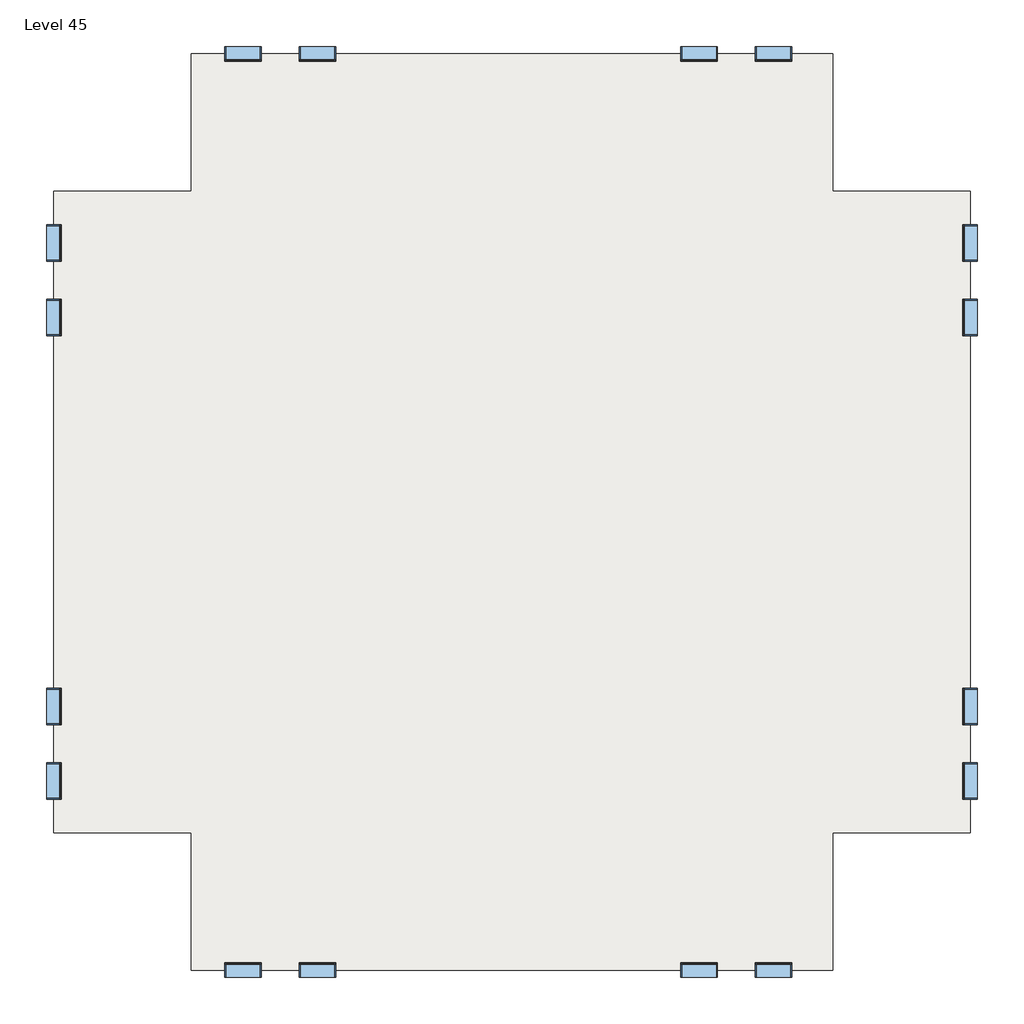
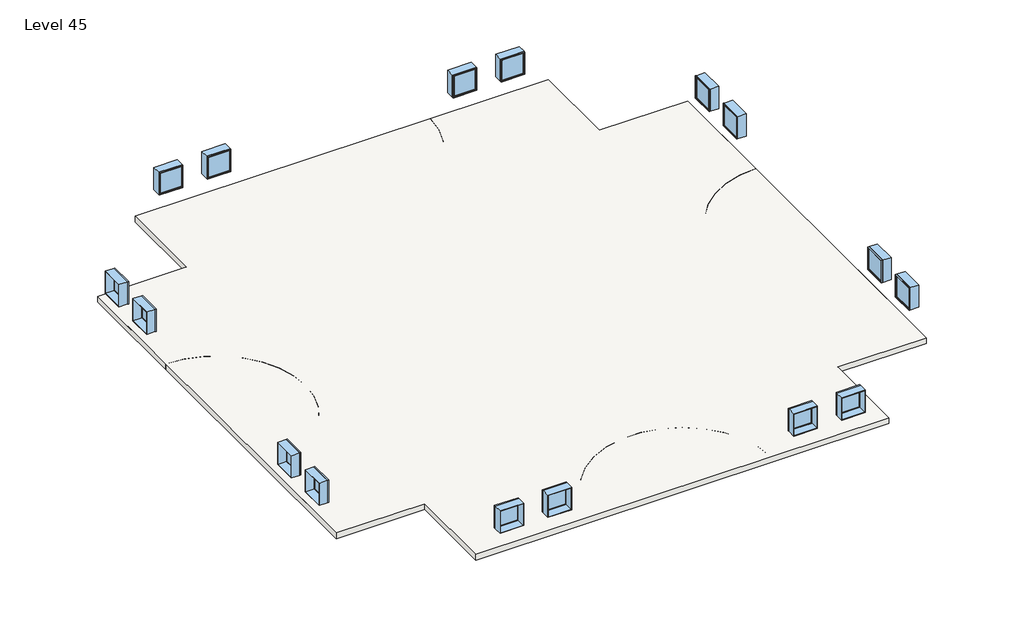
# One storey: 16 windows, 3 slabs.
"""IFC4 building model written with IfcOpenShell, lengths in millimetres."""

import ifcopenshell
import ifcopenshell.guid

model = None  # the IFC model being written
_history = None  # IfcOwnerHistory: only IFC2X3 demands one
_inside = {}  # id of a spatial element -> (the spatial element, [elements in it])
_under = {}  # id of a project, library or spatial element -> (it, [spatial elements below it])
_declared = {}  # id of a project -> (the project, [libraries it declares])
_typed = {}  # id of a type object -> (the type object, [elements of that type])
_made_of = {}  # id of a material, layer set ... -> (it, [elements and type objects made of it])


def new_model(schema):
    """Start an empty IFC model of exactly this schema.

    Asked for "IFC4X3", IfcOpenShell would pick the latest addendum, in which some entities
    have other attributes; the version numbers below select the first issue.
    IFC2X3 requires an IfcOwnerHistory on every rooted entity: one is made here for all.
    """
    global model, _history
    if schema == "IFC4X3":
        model = ifcopenshell.file(schema_version=(4, 3, 0, 0))
    else:
        model = ifcopenshell.file(schema=schema)
    _inside.clear()
    _under.clear()
    _declared.clear()
    _typed.clear()
    _made_of.clear()
    _history = None
    if model.schema == "IFC2X3":
        org = make("IfcOrganization", Name="unknown")
        user = make(
            "IfcPersonAndOrganization",
            ThePerson=make("IfcPerson", FamilyName="unknown"),
            TheOrganization=org,
        )
        app = make(
            "IfcApplication",
            ApplicationDeveloper=org,
            Version="unknown",
            ApplicationFullName="unknown",
            ApplicationIdentifier="unknown",
        )
        _history = make(
            "IfcOwnerHistory",
            OwningUser=user,
            OwningApplication=app,
            ChangeAction="ADDED",
            CreationDate=0,
        )
    return model


def make(cls, **values):
    """One entity of the class cls with the attributes given. An attribute that is None is left unset."""
    return model.create_entity(
        cls, **{name: value for name, value in values.items() if value is not None}
    )


def rooted(cls, **values):
    """An entity with a GlobalId (a new one), such as an element, a storey or a relation."""
    return make(cls, GlobalId=ifcopenshell.guid.new(), OwnerHistory=_history, **values)


def si_unit(unit_type, name, prefix=None):
    """IfcSIUnit, for example si_unit("LENGTHUNIT", "METRE", prefix="MILLI")."""
    return make("IfcSIUnit", UnitType=unit_type, Prefix=prefix, Name=name)


def assignment(units):
    """IfcUnitAssignment: the units of a project."""
    return None if units is None else make("IfcUnitAssignment", Units=units)


def point(xyz):
    """IfcCartesianPoint."""
    return None if xyz is None else make("IfcCartesianPoint", Coordinates=xyz)


def direction(xyz):
    """IfcDirection."""
    return None if xyz is None else make("IfcDirection", DirectionRatios=xyz)


def frame(location, z_axis=None, x_axis=None):
    """IfcAxis2Placement3D, a coordinate frame: its origin and axes. An axis left out is left unset."""
    return make(
        "IfcAxis2Placement3D",
        Location=point(location),
        Axis=direction(z_axis),
        RefDirection=direction(x_axis),
    )


def frame_2d(location, x_axis=None):
    """IfcAxis2Placement2D, a coordinate frame in the plane: its origin and x axis."""
    return make(
        "IfcAxis2Placement2D", Location=point(location), RefDirection=direction(x_axis)
    )


def origin():
    """The frame at (0, 0, 0) with its axes left unset."""
    return frame((0.0, 0.0, 0.0))


def place(relative_to, where):
    """IfcLocalPlacement: puts the frame where relative to a parent placement (None: the world)."""
    return make(
        "IfcLocalPlacement", PlacementRelTo=relative_to, RelativePlacement=where
    )


def context(
    kind, dimensions, precision=None, world=None, true_north=None, identifier=None
):
    """IfcGeometricRepresentationContext, for example the 3D "Model" context."""
    return make(
        "IfcGeometricRepresentationContext",
        ContextIdentifier=identifier,
        ContextType=kind,
        CoordinateSpaceDimension=dimensions,
        Precision=precision,
        WorldCoordinateSystem=world,
        TrueNorth=true_north,
    )


def project(units=None, contexts=None):
    """IfcProject with its units and contexts."""
    return rooted(
        "IfcProject",
        Name="project",
        RepresentationContexts=contexts,
        UnitsInContext=assignment(units),
    )


def spatial(cls, under=None, at=None, **own):
    """A site, building, storey or space (cls), placed at a placement, below another one or the project."""
    s = rooted(cls, ObjectPlacement=at, **own)
    if under is not None:
        _under.setdefault(under.id(), (under, []))[1].append(s)
    return s


def polyline(points):
    """IfcPolyline through the points."""
    return make("IfcPolyline", Points=[point(p) for p in points])


def circle_curve(where, radius):
    """IfcCircle in the frame where."""
    return make("IfcCircle", Position=where, Radius=radius)


def trimmed(basis, trim1, trim2, sense, master):
    """IfcTrimmedCurve: the piece of a basis curve between two trims."""
    return make(
        "IfcTrimmedCurve",
        BasisCurve=basis,
        Trim1=trim1,
        Trim2=trim2,
        SenseAgreement=sense,
        MasterRepresentation=master,
    )


def segment(curve, same_sense, transition):
    """IfcCompositeCurveSegment."""
    return make(
        "IfcCompositeCurveSegment",
        Transition=transition,
        SameSense=same_sense,
        ParentCurve=curve,
    )


def composite_curve(segments, self_intersect=None):
    """IfcCompositeCurve: segments joined end to end."""
    return make("IfcCompositeCurve", Segments=segments, SelfIntersect=self_intersect)


def outline(outer, holes=None, kind="AREA"):
    """IfcArbitraryClosedProfileDef: a profile drawn as a closed curve; with holes, ...WithVoids."""
    if holes is None:
        return make("IfcArbitraryClosedProfileDef", ProfileType=kind, OuterCurve=outer)
    return make(
        "IfcArbitraryProfileDefWithVoids",
        ProfileType=kind,
        OuterCurve=outer,
        InnerCurves=holes,
    )


def extrude(swept, where, along, depth):
    """IfcExtrudedAreaSolid: the profile swept, set in the frame where, extruded along a direction by depth."""
    return make(
        "IfcExtrudedAreaSolid",
        SweptArea=swept,
        Position=where,
        ExtrudedDirection=direction(along),
        Depth=depth,
    )


def shape(context_of_items, identifier, shape_type, items):
    """IfcShapeRepresentation: the items that make up one representation, for example the "Body"."""
    return make(
        "IfcShapeRepresentation",
        ContextOfItems=context_of_items,
        RepresentationIdentifier=identifier,
        RepresentationType=shape_type,
        Items=items,
    )


def source(mapping_origin, context_of_items, identifier, shape_type, items):
    """IfcRepresentationMap: a shape defined once, which mapped items show again and again."""
    return make(
        "IfcRepresentationMap",
        MappingOrigin=mapping_origin,
        MappedRepresentation=shape(context_of_items, identifier, shape_type, items),
    )


def transform(
    local_origin,
    x_axis=None,
    y_axis=None,
    z_axis=None,
    scale=None,
    scale2=None,
    scale3=None,
    uniform=True,
):
    """IfcCartesianTransformationOperator3D, or its non-uniform kind. x_axis, y_axis, z_axis: its Axis1, 2, 3."""
    if uniform:
        return make(
            "IfcCartesianTransformationOperator3D",
            Axis1=direction(x_axis),
            Axis2=direction(y_axis),
            LocalOrigin=point(local_origin),
            Scale=scale,
            Axis3=direction(z_axis),
        )
    return make(
        "IfcCartesianTransformationOperator3DnonUniform",
        Axis1=direction(x_axis),
        Axis2=direction(y_axis),
        LocalOrigin=point(local_origin),
        Scale=scale,
        Axis3=direction(z_axis),
        Scale2=scale2,
        Scale3=scale3,
    )


def mapped(mapping_source, mapping_target):
    """IfcMappedItem: shows the shape of a source again, moved by a transform."""
    return make(
        "IfcMappedItem", MappingSource=mapping_source, MappingTarget=mapping_target
    )


def made_of(thing, what):
    """Note that an element or type object is made of a material, layer set ...; save() writes the relation."""
    if what is not None:
        _made_of.setdefault(what.id(), (what, []))[1].append(thing)
    return thing


def element(
    cls,
    number,
    at=None,
    inside=None,
    cuts=None,
    type_object=None,
    material=None,
    context=None,
    identifier="Body",
    shape_type=None,
    held_by="IfcProductDefinitionShape",
    body=None,
    shapes=None,
    **own,
):
    """One element of the class cls, such as IfcWall. Its Tag is "e" and its number.

    at: its placement. inside: the storey or other place that contains it. cuts: it is an
    opening in that element (IfcRelVoidsElement). A single representation is given by context,
    identifier, shape_type and body (its items); several are given by shapes. held_by: the class
    of the entity that holds the representations. save() writes the other relations.
    """
    e = rooted(cls, Tag="e%d" % number, ObjectPlacement=at, **own)
    if body is not None:
        shapes = [shape(context, identifier, shape_type, body)]
    if shapes is not None:
        e.Representation = make(held_by, Representations=shapes)
    if inside is not None:
        _inside.setdefault(inside.id(), (inside, []))[1].append(e)
    if cuts is not None:
        rooted(
            "IfcRelVoidsElement", RelatingBuildingElement=cuts, RelatedOpeningElement=e
        )
    if type_object is not None:
        _typed.setdefault(type_object.id(), (type_object, []))[1].append(e)
    return made_of(e, material)


def aggregate(whole, parts):
    """IfcRelAggregates: a whole, such as a stair, and the parts it consists of."""
    return rooted("IfcRelAggregates", RelatingObject=whole, RelatedObjects=parts)


def save(model, path):
    """Write the relations noted so far, then the file.

    IfcRelAggregates (storeys below a building ...), IfcRelContainedInSpatialStructure (elements
    in a storey), IfcRelDefinesByType, IfcRelAssociatesMaterial and IfcRelDeclares: one each for
    every whole, place, type object, material and project.
    """
    for whole, parts in _under.values():
        aggregate(whole, parts)
    for where, things in _inside.values():
        rooted(
            "IfcRelContainedInSpatialStructure",
            RelatedElements=things,
            RelatingStructure=where,
        )
    for kind, things in _typed.values():
        rooted("IfcRelDefinesByType", RelatedObjects=things, RelatingType=kind)
    for what, things in _made_of.values():
        rooted("IfcRelAssociatesMaterial", RelatedObjects=things, RelatingMaterial=what)
    for by, libraries in _declared.values():
        rooted("IfcRelDeclares", RelatingContext=by, RelatedDefinitions=libraries)
    model.write(path)


def window_d0035ecf(model_context):
    return source(origin(), model_context, "Body", "SweptSolid", [
        extrude(outline(polyline([(508.0, 200.025), (-584.2, 200.025), (-584.2, 212.725), (508.0, 212.725), (508.0, 200.025)])), frame((0.0, 0.0, 977.9), z_axis=(0.0, 0.0, 1.0), x_axis=(1.0, 0.0, 0.0)), (0.0, 0.0, 1.0), 1092.2),
        extrude(outline(polyline([(2114.55, -628.65), (933.45, -628.65), (933.45, 552.45), (2114.55, 552.45), (2114.55, -628.65)]), holes=[polyline([(2070.1, -584.2), (2070.1, 508.0), (977.9, 508.0), (977.9, -584.2), (2070.1, -584.2)])]), frame((0.0, 184.15, 0.0), z_axis=(0.0, 1.0, 0.0), x_axis=(0.0, 0.0, 1.0)), (0.0, 0.0, 1.0), 44.45),
        extrude(outline(polyline([(2133.6, -647.7), (914.4, -647.7), (914.4, 571.5), (2133.6, 571.5), (2133.6, -647.7)]), holes=[polyline([(2101.85, -615.95), (2101.85, 539.75), (946.15, 539.75), (946.15, -615.95), (2101.85, -615.95)])]), frame((0.0, -247.65, 0.0), z_axis=(0.0, 1.0, 0.0), x_axis=(0.0, 0.0, 1.0)), (0.0, 0.0, 1.0), 431.8),
        extrude(outline(polyline([(2133.6, 571.5), (2133.6, -647.7), (914.4, -647.7), (914.4, 571.5), (2133.6, 571.5)]), holes=[polyline([(2114.55, 552.45), (933.45, 552.45), (933.45, -628.65), (2114.55, -628.65), (2114.55, 552.45)])]), frame((0.0, 184.15, 0.0), z_axis=(0.0, 1.0, 0.0), x_axis=(0.0, 0.0, 1.0)), (0.0, 0.0, 1.0), 63.5),
    ])


def window_d434eb62(model_context):
    return source(origin(), model_context, "Body", "SweptSolid", [
        extrude(outline(polyline([(508.0, -200.025), (508.0, -212.725), (-584.2, -212.725), (-584.2, -200.025), (508.0, -200.025)])), frame((0.0, 0.0, 977.9), z_axis=(0.0, 0.0, 1.0), x_axis=(1.0, 0.0, 0.0)), (0.0, 0.0, 1.0), 1092.2),
        extrude(outline(polyline([(2114.55, -628.65), (933.45, -628.65), (933.45, 552.45), (2114.55, 552.45), (2114.55, -628.65)]), holes=[polyline([(2070.1, -584.2), (2070.1, 508.0), (977.9, 508.0), (977.9, -584.2), (2070.1, -584.2)])]), frame((0.0, -228.6, 0.0), z_axis=(0.0, 1.0, 0.0), x_axis=(0.0, 0.0, 1.0)), (0.0, 0.0, 1.0), 44.45),
        extrude(outline(polyline([(2133.6, -647.7), (914.4, -647.7), (914.4, 571.5), (2133.6, 571.5), (2133.6, -647.7)]), holes=[polyline([(2101.85, -615.95), (2101.85, 539.75), (946.15, 539.75), (946.15, -615.95), (2101.85, -615.95)])]), frame((0.0, -184.15, 0.0), z_axis=(0.0, 1.0, 0.0), x_axis=(0.0, 0.0, 1.0)), (0.0, 0.0, 1.0), 431.8),
        extrude(outline(polyline([(2133.6, 571.5), (2133.6, -647.7), (914.4, -647.7), (914.4, 571.5), (2133.6, 571.5)]), holes=[polyline([(2114.55, 552.45), (933.45, 552.45), (933.45, -628.65), (2114.55, -628.65), (2114.55, 552.45)])]), frame((0.0, -247.65, 0.0), z_axis=(0.0, 1.0, 0.0), x_axis=(0.0, 0.0, 1.0)), (0.0, 0.0, 1.0), 63.5),
    ])


model = new_model("IFC4")

# Units and contexts
model_context = context("Model", 3, world=origin())
ifc_project = project(units=[si_unit("LENGTHUNIT", "METRE", prefix="MILLI")], contexts=[model_context])

# Site, building, storey
site = spatial("IfcSite", under=ifc_project)
building = spatial("IfcBuilding", under=site)
storey = spatial("IfcBuildingStorey", under=building, Name="Level 45", Elevation=134112.0)

# Slabs
placement = place(None, origin())
element("IfcSlab", 1, ObjectType="Generic - 12\"", at=placement, inside=storey, context=model_context, shape_type="SweptSolid", body=[
    extrude(outline(polyline([(-7150.3629456, 4479.6634547), (-7150.3629456, 9051.6634547), (14185.6370544, 9051.6634547), (14185.6370544, 4479.6634547), (18757.6370544, 4479.6634547), (18757.6370544, -16856.3365453), (14185.6370544, -16856.3365453), (14185.6370544, -21428.3365453), (-7150.3629456, -21428.3365453), (-7150.3629456, -16856.3365453), (-11722.3629456, -16856.3365453), (-11722.3629456, 4479.6634547), (-7150.3629456, 4479.6634547)])), frame((0.0, 0.0, 133807.2), z_axis=(0.0, 0.0, 1.0), x_axis=(1.0, 0.0, 0.0)), (0.0, 0.0, 1.0), 304.8),
])
element("IfcSlab", 2, ObjectType="Generic - 12\"", at=placement, inside=storey, context=model_context, shape_type="SweptSolid", body=[
    extrude(outline(polyline([(-7150.3629456, 4479.6634547), (-7150.3629456, 9051.6634547), (14185.6370544, 9051.6634547), (14185.6370544, 4479.6634547), (18757.6370544, 4479.6634547), (18757.6370544, -16856.3365453), (14185.6370544, -16856.3365453), (14185.6370544, -21428.3365453), (-7150.3629456, -21428.3365453), (-7150.3629456, -16856.3365453), (-11722.3629456, -16856.3365453), (-11722.3629456, 4479.6634547), (-7150.3629456, 4479.6634547)])), frame((0.0, 0.0, 133807.2), z_axis=(0.0, 0.0, 1.0), x_axis=(1.0, 0.0, 0.0)), (0.0, 0.0, 1.0), 304.8),
])
element("IfcSlab", 3, ObjectType="Generic - 12\"", at=placement, inside=storey, context=model_context, shape_type="SweptSolid", body=[
    extrude(outline(composite_curve([segment(polyline([(-7150.3629456, 4479.6634547), (-7150.3629456, 9051.6634547), (-1054.3629456, 9051.6634547)]), True, "CONTINUOUS"), segment(trimmed(circle_curve(frame_2d((3517.6370544, 9051.6634547)), 4572.0), [point((-1054.3629456, 9051.6634547))], [point((8089.6370544, 9051.6634547))], True, "CARTESIAN"), True, "CONTINUOUS"), segment(polyline([(8089.6370544, 9051.6634547), (14185.6370544, 9051.6634547), (14185.6370544, 4479.6634547), (18757.6370544, 4479.6634547), (18757.6370544, -1616.3365453)]), True, "CONTINUOUS"), segment(trimmed(circle_curve(frame_2d((18757.6370544, -6188.3365453)), 4572.0), [point((18757.6370544, -1616.3365453))], [point((18757.6370544, -10760.3365453))], True, "CARTESIAN"), True, "CONTINUOUS"), segment(polyline([(18757.6370544, -10760.3365453), (18757.6370544, -16856.3365453), (14185.6370544, -16856.3365453), (14185.6370544, -21428.3365453), (8089.6370544, -21428.3365453)]), True, "CONTINUOUS"), segment(trimmed(circle_curve(frame_2d((3517.6370544, -21428.3365453)), 4572.0), [point((8089.6370544, -21428.3365453))], [point((-1054.3629456, -21428.3365453))], True, "CARTESIAN"), True, "CONTINUOUS"), segment(polyline([(-1054.3629456, -21428.3365453), (-7150.3629456, -21428.3365453), (-7150.3629456, -16856.3365453), (-11722.3629456, -16856.3365453), (-11722.3629456, -10760.3365453)]), True, "CONTINUOUS"), segment(trimmed(circle_curve(frame_2d((-11722.3629456, -6188.3365453)), 4572.0), [point((-11722.3629456, -10760.3365453))], [point((-11722.3629456, -1616.3365453))], True, "CARTESIAN"), True, "CONTINUOUS"), segment(polyline([(-11722.3629456, -1616.3365453), (-11722.3629456, 4479.6634547), (-7150.3629456, 4479.6634547)]), True, "CONTINUOUS")], self_intersect=False)), frame((0.0, 0.0, 133807.2), z_axis=(0.0, 0.0, 1.0), x_axis=(1.0, 0.0, 0.0)), (0.0, 0.0, 1.0), 304.8),
])

# Windows
window_shape = window_d0035ecf(model_context)
element("IfcWindow", 4, ObjectType="Fixed : 48\" x 48\"", at=placement, inside=storey, context=model_context, shape_type="MappedRepresentation", body=[
    mapped(window_shape, transform((-11719.1879456, 247.3884547, 134112.0), x_axis=(0.0, -1.0, 0.0), y_axis=(1.0, 0.0, 0.0), z_axis=(0.0, 0.0, 1.0))),
])
element("IfcWindow", 5, ObjectType="Fixed : 48\" x 48\"", at=placement, inside=storey, context=model_context, shape_type="MappedRepresentation", body=[
    mapped(window_shape, transform((-5469.1993281, 9048.4884547, 134112.0), x_axis=(-1.0, 0.0, 0.0), y_axis=(0.0, -1.0, 0.0), z_axis=(0.0, 0.0, 1.0))),
])
element("IfcWindow", 6, ObjectType="Fixed : 48\" x 48\"", at=placement, inside=storey, context=model_context, shape_type="MappedRepresentation", body=[
    mapped(window_shape, transform((-11719.1879456, -15175.1729277, 134112.0), x_axis=(0.0, -1.0, 0.0), y_axis=(1.0, 0.0, 0.0), z_axis=(0.0, 0.0, 1.0))),
])
element("IfcWindow", 7, ObjectType="Fixed : 48\" x 48\"", at=placement, inside=storey, context=model_context, shape_type="MappedRepresentation", body=[
    mapped(window_shape, transform((-2918.0879456, -21425.1615453, 134112.0), x_axis=(1.0, 0.0, 0.0), y_axis=(0.0, 1.0, 0.0), z_axis=(0.0, 0.0, 1.0))),
])
element("IfcWindow", 8, ObjectType="Fixed : 48\" x 48\"", at=placement, inside=storey, context=model_context, shape_type="MappedRepresentation", body=[
    mapped(window_shape, transform((18754.4620544, 2798.4998372, 134112.0), x_axis=(0.0, 1.0, 0.0), y_axis=(-1.0, 0.0, 0.0), z_axis=(0.0, 0.0, 1.0))),
])
element("IfcWindow", 9, ObjectType="Fixed : 48\" x 48\"", at=placement, inside=storey, context=model_context, shape_type="MappedRepresentation", body=[
    mapped(window_shape, transform((9705.7120544, 9048.4884547, 134112.0), x_axis=(-1.0, 0.0, 0.0), y_axis=(0.0, -1.0, 0.0), z_axis=(0.0, 0.0, 1.0))),
])
element("IfcWindow", 10, ObjectType="Fixed : 48\" x 48\"", at=placement, inside=storey, context=model_context, shape_type="MappedRepresentation", body=[
    mapped(window_shape, transform((18754.4620544, -12624.0615453, 134112.0), x_axis=(0.0, 1.0, 0.0), y_axis=(-1.0, 0.0, 0.0), z_axis=(0.0, 0.0, 1.0))),
])
element("IfcWindow", 11, ObjectType="Fixed : 48\" x 48\"", at=placement, inside=storey, context=model_context, shape_type="MappedRepresentation", body=[
    mapped(window_shape, transform((12256.8234368, -21425.1615453, 134112.0), x_axis=(1.0, 0.0, 0.0), y_axis=(0.0, 1.0, 0.0), z_axis=(0.0, 0.0, 1.0))),
])
window_2_shape = window_d434eb62(model_context)
element("IfcWindow", 12, ObjectType="Fixed : 48\" x 48\"", at=placement, inside=storey, context=model_context, shape_type="MappedRepresentation", body=[
    mapped(window_2_shape, transform((-11719.1879456, 2798.4998372, 134112.0), x_axis=(0.0, 1.0, 0.0), y_axis=(-1.0, 0.0, 0.0), z_axis=(0.0, 0.0, 1.0))),
])
element("IfcWindow", 13, ObjectType="Fixed : 48\" x 48\"", at=placement, inside=storey, context=model_context, shape_type="MappedRepresentation", body=[
    mapped(window_2_shape, transform((-2918.0879456, 9048.4884547, 134112.0), x_axis=(1.0, 0.0, 0.0), y_axis=(0.0, 1.0, 0.0), z_axis=(0.0, 0.0, 1.0))),
])
element("IfcWindow", 14, ObjectType="Fixed : 48\" x 48\"", at=placement, inside=storey, context=model_context, shape_type="MappedRepresentation", body=[
    mapped(window_2_shape, transform((-11719.1879456, -12624.0615453, 134112.0), x_axis=(0.0, 1.0, 0.0), y_axis=(-1.0, 0.0, 0.0), z_axis=(0.0, 0.0, 1.0))),
])
element("IfcWindow", 15, ObjectType="Fixed : 48\" x 48\"", at=placement, inside=storey, context=model_context, shape_type="MappedRepresentation", body=[
    mapped(window_2_shape, transform((-5469.1993281, -21425.1615453, 134112.0), x_axis=(-1.0, 0.0, 0.0), y_axis=(0.0, -1.0, 0.0), z_axis=(0.0, 0.0, 1.0))),
])
element("IfcWindow", 16, ObjectType="Fixed : 48\" x 48\"", at=placement, inside=storey, context=model_context, shape_type="MappedRepresentation", body=[
    mapped(window_2_shape, transform((18754.4620544, 247.3884547, 134112.0), x_axis=(0.0, -1.0, 0.0), y_axis=(1.0, 0.0, 0.0), z_axis=(0.0, 0.0, 1.0))),
])
element("IfcWindow", 17, ObjectType="Fixed : 48\" x 48\"", at=placement, inside=storey, context=model_context, shape_type="MappedRepresentation", body=[
    mapped(window_2_shape, transform((12256.8234368, 9048.4884547, 134112.0), x_axis=(1.0, 0.0, 0.0), y_axis=(0.0, 1.0, 0.0), z_axis=(0.0, 0.0, 1.0))),
])
element("IfcWindow", 18, ObjectType="Fixed : 48\" x 48\"", at=placement, inside=storey, context=model_context, shape_type="MappedRepresentation", body=[
    mapped(window_2_shape, transform((18754.4620544, -15175.1729277, 134112.0), x_axis=(0.0, -1.0, 0.0), y_axis=(1.0, 0.0, 0.0), z_axis=(0.0, 0.0, 1.0))),
])
element("IfcWindow", 19, ObjectType="Fixed : 48\" x 48\"", at=placement, inside=storey, context=model_context, shape_type="MappedRepresentation", body=[
    mapped(window_2_shape, transform((9705.7120544, -21425.1615453, 134112.0), x_axis=(-1.0, 0.0, 0.0), y_axis=(0.0, -1.0, 0.0), z_axis=(0.0, 0.0, 1.0))),
])

save(model, "model.ifc")
